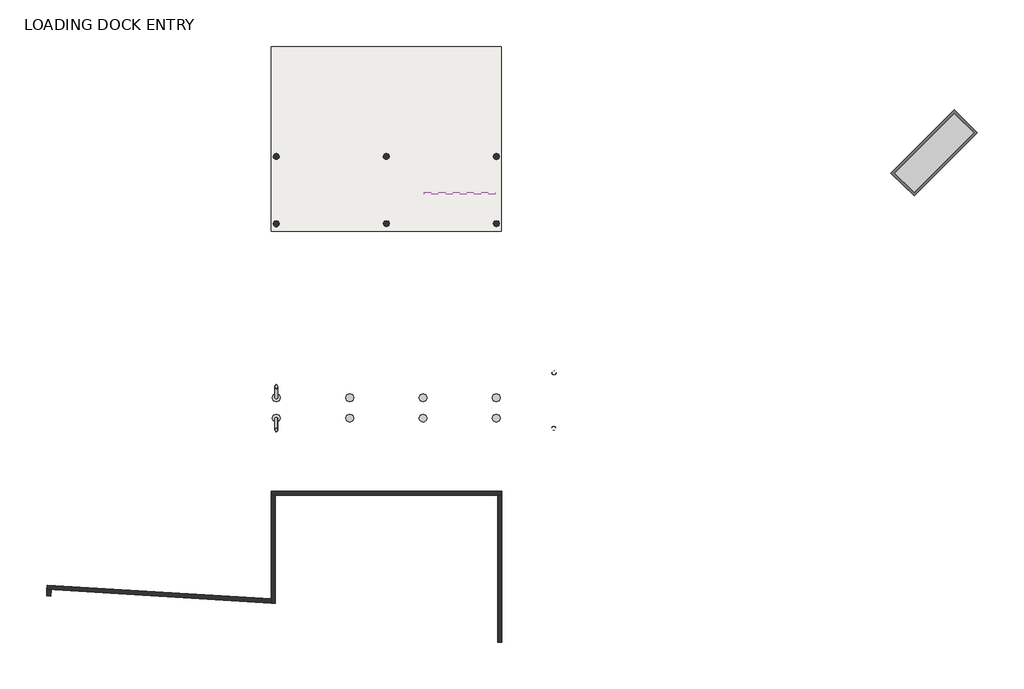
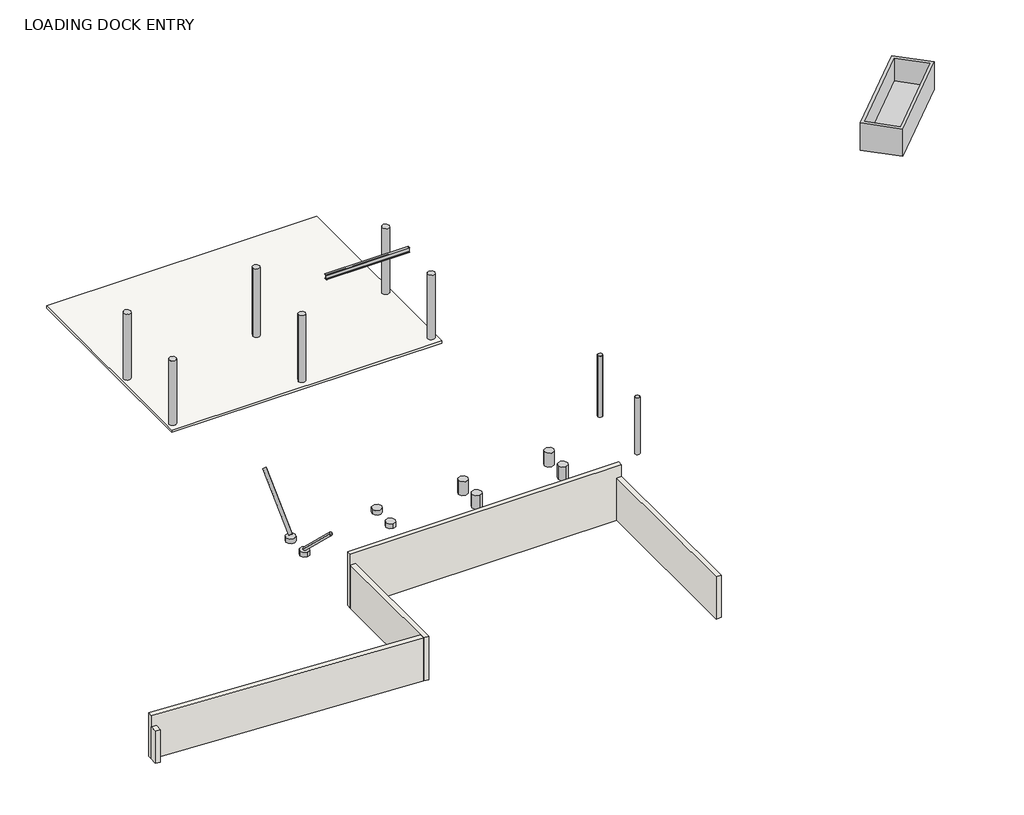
# One storey, incomplete: 18 columns, 5 walls, 1 beam, 1 proxy, 1 slab.
"""IFC4 building model written with IfcOpenShell, lengths in millimetres."""

from ifc_helpers import new_model, si_unit, point, frame, frame_2d, origin, place, context, project, spatial, polyline, circle_curve, trimmed, segment, composite_curve, outline, extrude, faceted_brep, transform, mapped, element, save
from components import w_wide_flange_w12x26_7d68bc66, existing_electrical_switch1_existing_electrical_switch_2896527b, hss_round_hollow_structural_section_column_hss12_x0_50_0d9d4bae, hss_round_hollow_structural_section_column_hss12_x0_50_422785a7, column_3b8863fc, column_3d543a50, column_1d684364, column_8929e9b8, column_4fa73ab5, column_67824fff, column_43f7fc2e, column_206635bb

model = new_model("IFC4")

# Units and contexts
model_context = context("Model", 3, world=origin())
ifc_project = project(units=[si_unit("LENGTHUNIT", "METRE", prefix="MILLI")], contexts=[model_context])

# Site, building, storey
site = spatial("IfcSite", under=ifc_project)
building = spatial("IfcBuilding", under=site)
storey = spatial("IfcBuildingStorey", under=building, Name="LOADING DOCK ENTRY", Elevation=290080.7)

# Beam
placement = place(None, origin())
w_wide_flange_w12x26_shape = w_wide_flange_w12x26_7d68bc66(model_context)
element("IfcBeam", 1, ObjectType="W-Wide Flange : W12X26", at=placement, inside=storey, context=model_context, shape_type="MappedRepresentation", body=[
    mapped(w_wide_flange_w12x26_shape, transform((39198.8899964, 203240.5614935, 294675.56), x_axis=(1.0, 0.0, 0.0), y_axis=(0.0, 1.0, 0.0), z_axis=(0.0, 0.0, 1.0))),
])

# Proxy
existing_electrical_switch1_existing_electrical_switch_shape = existing_electrical_switch1_existing_electrical_switch_2896527b(model_context)
element("IfcBuildingElementProxy", 2, Name="Existing Electrical Switch1 : Existing Electrical Switch", ObjectType="Existing Electrical Switch1 : Existing Electrical Switch", at=placement, inside=storey, context=model_context, shape_type="MappedRepresentation", body=[
    mapped(existing_electrical_switch1_existing_electrical_switch_shape, transform((-89111.9247697, 40654.2381884, 0.0), x_axis=(1.0, 0.0, 0.0), y_axis=(0.0, 1.0, 0.0), z_axis=(0.0, 0.0, 1.0))),
])

# Columns
hss_round_hollow_structural_section_column_hss12_x0_50_shape = hss_round_hollow_structural_section_column_hss12_x0_50_0d9d4bae(model_context)
element("IfcColumn", 3, ObjectType="HSS-Round Hollow Structural Section-Column : HSS12 X0.50", at=placement, inside=storey, context=model_context, shape_type="MappedRepresentation", body=[
    mapped(hss_round_hollow_structural_section_column_hss12_x0_50_shape, transform((43781.3226832, 189791.3399368, 0.0), x_axis=(1.0, 0.0, 0.0), y_axis=(0.0, 1.0, 0.0), z_axis=(0.0, 0.0, 1.0))),
])
hss_round_hollow_structural_section_column_hss12_x0_50_2_shape = hss_round_hollow_structural_section_column_hss12_x0_50_422785a7(model_context)
element("IfcColumn", 4, ObjectType="HSS-Round Hollow Structural Section-Column : HSS12 X0.50", at=placement, inside=storey, context=model_context, shape_type="MappedRepresentation", body=[
    mapped(hss_round_hollow_structural_section_column_hss12_x0_50_2_shape, transform((43762.2726832, 185651.1399368, 0.0), x_axis=(1.0, 0.0, 0.0), y_axis=(0.0, 1.0, 0.0), z_axis=(0.0, 0.0, 1.0))),
])
element("IfcColumn", 5, ObjectType="HSS-Round Hollow Structural Section-Column : HSS8.625X0.500", at=placement, inside=storey, context=model_context, shape_type="SweptSolid", body=[
    extrude(outline(composite_curve([segment(trimmed(circle_curve(frame_2d((0.0, -109.5375)), 109.5375), [point((0.0, -219.075))], [point((0.0, 0.0))], False, "CARTESIAN"), True, "CONTINUOUS"), segment(trimmed(circle_curve(frame_2d((0.0, -109.5375)), 109.5375), [point((0.0, 0.0))], [point((0.0, -219.075))], False, "CARTESIAN"), True, "CONTINUOUS")], self_intersect=False), holes=[composite_curve([segment(trimmed(circle_curve(frame_2d((0.0, -109.5375)), 97.7265), [point((0.0, -207.264))], [point((0.0, -11.811))], True, "CARTESIAN"), True, "CONTINUOUS"), segment(trimmed(circle_curve(frame_2d((0.0, -109.5375)), 97.7265), [point((0.0, -11.811))], [point((0.0, -207.264))], True, "CARTESIAN"), True, "CONTINUOUS")], self_intersect=False)]), frame((22898.3129964, 187937.204816, 290486.1057645), z_axis=(0.0, 0.7251659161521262, 0.6885741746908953), x_axis=(0.0, 0.6885741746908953, -0.7251659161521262)), (0.0, 0.0, 1.0), 3964.4029378),
])
element("IfcColumn", 6, ObjectType="HSS-Round Hollow Structural Section-Column : HSS8.625X0.500", at=placement, inside=storey, context=model_context, shape_type="SweptSolid", body=[
    extrude(outline(composite_curve([segment(trimmed(circle_curve(frame_2d((0.0, -109.5375)), 109.5375), [point((0.0, -219.075))], [point((0.0, 0.0))], False, "CARTESIAN"), True, "CONTINUOUS"), segment(trimmed(circle_curve(frame_2d((0.0, -109.5375)), 109.5375), [point((0.0, 0.0))], [point((0.0, -219.075))], False, "CARTESIAN"), True, "CONTINUOUS")], self_intersect=False), holes=[composite_curve([segment(trimmed(circle_curve(frame_2d((0.0, -109.5375)), 97.7265), [point((0.0, -207.264))], [point((0.0, -11.811))], True, "CARTESIAN"), True, "CONTINUOUS"), segment(trimmed(circle_curve(frame_2d((0.0, -109.5375)), 97.7265), [point((0.0, -11.811))], [point((0.0, -207.264))], True, "CARTESIAN"), True, "CONTINUOUS")], self_intersect=False)]), frame((23117.3879964, 186387.3824451, 290486.1057645), z_axis=(0.0, -0.7251659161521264, 0.688574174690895), x_axis=(0.0, -0.688574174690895, -0.7251659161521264)), (0.0, 0.0, 1.0), 3964.4029378),
])
element("IfcColumn", 7, ObjectType="Round Column : 18\" DIAMETER", at=placement, inside=storey, context=model_context, shape_type="SweptSolid", body=[
    extrude(outline(composite_curve([segment(trimmed(circle_curve(frame_2d((31237.4504964, 200962.223934)), 228.6), [point((31466.0504964, 200962.223934))], [point((31008.8504964, 200962.223934))], False, "CARTESIAN"), True, "CONTINUOUS"), segment(trimmed(circle_curve(frame_2d((31237.4504964, 200962.223934)), 228.6), [point((31008.8504964, 200962.223934))], [point((31237.4504964, 201190.823934))], False, "CARTESIAN"), True, "CONTINUOUS"), segment(trimmed(circle_curve(frame_2d((31237.4504964, 200962.223934)), 228.6), [point((31237.4504964, 201190.823934))], [point((31466.0504964, 200962.223934))], False, "CARTESIAN"), True, "CONTINUOUS")], self_intersect=False)), frame((0.0, 0.0, 290080.7), z_axis=(0.0, 0.0, 1.0), x_axis=(1.0, 0.0, 0.0)), (0.0, 0.0, 1.0), 4495.8),
])
element("IfcColumn", 8, ObjectType="Round Column : 18\" DIAMETER", at=placement, inside=storey, context=model_context, shape_type="SweptSolid", body=[
    extrude(outline(composite_curve([segment(trimmed(circle_curve(frame_2d((39467.0504964, 200962.223934)), 228.6), [point((39238.4504964, 200962.223934))], [point((39467.0504964, 201190.823934))], False, "CARTESIAN"), True, "CONTINUOUS"), segment(trimmed(circle_curve(frame_2d((39467.0504964, 200962.223934)), 228.6), [point((39467.0504964, 201190.823934))], [point((39695.6504964, 200962.223934))], False, "CARTESIAN"), True, "CONTINUOUS"), segment(trimmed(circle_curve(frame_2d((39467.0504964, 200962.223934)), 228.6), [point((39695.6504964, 200962.223934))], [point((39238.4504964, 200962.223934))], False, "CARTESIAN"), True, "CONTINUOUS")], self_intersect=False)), frame((0.0, 0.0, 290080.7), z_axis=(0.0, 0.0, 1.0), x_axis=(1.0, 0.0, 0.0)), (0.0, 0.0, 1.0), 4343.4),
])
column_shape = column_3b8863fc(model_context)
element("IfcColumn", 9, ObjectType="Round Column : 18\" DIAMETER", at=placement, inside=storey, context=model_context, shape_type="MappedRepresentation", body=[
    mapped(column_shape, transform((23007.8504964, 205983.7614935, 0.0), x_axis=(1.0, 0.0, 0.0), y_axis=(0.0, 1.0, 0.0), z_axis=(0.0, 0.0, 1.0))),
])
column_2_shape = column_3d543a50(model_context)
element("IfcColumn", 10, ObjectType="Round Column : 18\" DIAMETER", at=placement, inside=storey, context=model_context, shape_type="MappedRepresentation", body=[
    mapped(column_2_shape, transform((23007.8504964, 200962.223934, 0.0), x_axis=(1.0, 0.0, 0.0), y_axis=(0.0, 1.0, 0.0), z_axis=(0.0, 0.0, 1.0))),
])
column_3_shape = column_1d684364(model_context)
element("IfcColumn", 11, ObjectType="Round Column : 18\" DIAMETER", at=placement, inside=storey, context=model_context, shape_type="MappedRepresentation", body=[
    mapped(column_3_shape, transform((31237.4504964, 205983.7614935, 0.0), x_axis=(1.0, 0.0, 0.0), y_axis=(0.0, 1.0, 0.0), z_axis=(0.0, 0.0, 1.0))),
])
column_4_shape = column_8929e9b8(model_context)
element("IfcColumn", 12, ObjectType="Round Column : 18\" DIAMETER", at=placement, inside=storey, context=model_context, shape_type="MappedRepresentation", body=[
    mapped(column_4_shape, transform((39467.0504964, 205983.7614935, 0.0), x_axis=(-1.0, 0.0, 0.0), y_axis=(0.0, -1.0, 0.0), z_axis=(0.0, 0.0, 1.0))),
])
column_5_shape = column_4fa73ab5(model_context)
element("IfcColumn", 13, ObjectType="Round Column : 24\" Dia Pier Footing", at=placement, inside=storey, context=model_context, shape_type="MappedRepresentation", body=[
    mapped(column_5_shape, transform((28494.2504964, 187940.0694118, 0.0), x_axis=(1.0, 0.0, 0.0), y_axis=(0.0, 1.0, 0.0), z_axis=(0.0, 0.0, 1.0))),
])
element("IfcColumn", 14, ObjectType="Round Column : 24\" Dia Pier Footing", at=placement, inside=storey, context=model_context, shape_type="MappedRepresentation", body=[
    mapped(column_5_shape, transform((23007.8504964, 187940.0694118, 0.0), x_axis=(1.0, 0.0, 0.0), y_axis=(0.0, 1.0, 0.0), z_axis=(0.0, 0.0, 1.0))),
])
column_6_shape = column_67824fff(model_context)
element("IfcColumn", 15, ObjectType="Round Column : 24\" Dia Pier Footing", at=placement, inside=storey, context=model_context, shape_type="MappedRepresentation", body=[
    mapped(column_6_shape, transform((28494.2504964, 186416.0694118, 0.0), x_axis=(1.0, 0.0, 0.0), y_axis=(0.0, 1.0, 0.0), z_axis=(0.0, 0.0, 1.0))),
])
element("IfcColumn", 16, ObjectType="Round Column : 24\" Dia Pier Footing", at=placement, inside=storey, context=model_context, shape_type="MappedRepresentation", body=[
    mapped(column_6_shape, transform((23007.8504964, 186416.0694118, 0.0), x_axis=(1.0, 0.0, 0.0), y_axis=(0.0, 1.0, 0.0), z_axis=(0.0, 0.0, 1.0))),
])
column_7_shape = column_43f7fc2e(model_context)
element("IfcColumn", 17, ObjectType="Round Column : 24\" Dia Pier Footing", at=placement, inside=storey, context=model_context, shape_type="MappedRepresentation", body=[
    mapped(column_7_shape, transform((33980.6504964, 186416.0694118, 0.0), x_axis=(-1.0, 0.0, 0.0), y_axis=(0.0, -1.0, 0.0), z_axis=(0.0, 0.0, 1.0))),
])
element("IfcColumn", 18, ObjectType="Round Column : 24\" Dia Pier Footing", at=placement, inside=storey, context=model_context, shape_type="MappedRepresentation", body=[
    mapped(column_7_shape, transform((39467.0504964, 186416.0694118, 0.0), x_axis=(-1.0, 0.0, 0.0), y_axis=(0.0, -1.0, 0.0), z_axis=(0.0, 0.0, 1.0))),
])
column_8_shape = column_206635bb(model_context)
element("IfcColumn", 19, ObjectType="Round Column : 24\" Dia Pier Footing", at=placement, inside=storey, context=model_context, shape_type="MappedRepresentation", body=[
    mapped(column_8_shape, transform((33980.6504964, 187940.0694118, 0.0), x_axis=(-1.0, 0.0, 0.0), y_axis=(0.0, -1.0, 0.0), z_axis=(0.0, 0.0, 1.0))),
])
element("IfcColumn", 20, ObjectType="Round Column : 24\" Dia Pier Footing", at=placement, inside=storey, context=model_context, shape_type="MappedRepresentation", body=[
    mapped(column_8_shape, transform((39467.0504964, 187940.0694118, 0.0), x_axis=(-1.0, 0.0, 0.0), y_axis=(0.0, -1.0, 0.0), z_axis=(0.0, 0.0, 1.0))),
])

# Slab
element("IfcSlab", 21, ObjectType="6\" Concrete Slab", at=placement, inside=storey, context=model_context, shape_type="SweptSolid", body=[
    extrude(outline(polyline([(39823.5654546, 214210.4633631), (39823.5654546, 200403.4248418), (22631.8619346, 200403.4248418), (22631.8619346, 214210.4633631), (39823.5654546, 214210.4633631)])), frame((0.0, 0.0, 289928.3), z_axis=(0.0, 0.0, 1.0), x_axis=(1.0, 0.0, 0.0)), (0.0, 0.0, 1.0), 152.4),
])

# Walls
element("IfcWall", 22, ObjectType="12\" Concrete Wall", at=placement, inside=storey, context=model_context, shape_type="SweptSolid", body=[
    extrude(outline(polyline([(39557.2890585, 169665.2101474), (39557.2890585, 180653.6439918), (39862.0890585, 180653.6439918), (39862.0890585, 169665.2101474), (39557.2890585, 169665.2101474)])), frame((0.0, 0.0, 290080.7), z_axis=(0.0, 0.0, 1.0), x_axis=(1.0, 0.0, 0.0)), (0.0, 0.0, 1.0), 2832.1),
])
element("IfcWall", 23, ObjectType="12\" Concrete Wall", at=placement, inside=storey, context=model_context, shape_type="Brep", body=[
    faceted_brep([(39862.0890585, 180958.4439918, 290080.7), (22613.0544304, 180958.4439918, 290080.7), (22613.0544304, 180958.4439918, 293700.2), (39862.0890585, 180958.4439918, 293700.2), (39862.0890585, 180653.6439918, 290080.7), (39862.0890585, 180653.6439918, 292912.8), (39862.0890585, 180653.6439918, 293700.2), (22613.0544304, 180653.6439918, 293700.2), (22613.0544304, 180653.6439918, 292989.0), (22613.0544304, 180653.6439918, 290080.7), (22917.8544304, 180653.6439918, 290080.7), (39557.2890585, 180653.6439918, 290080.7)], [[[0, 1, 2, 3]], [[4, 5, 6, 7, 8, 9, 10, 11]], [[1, 0, 4, 11, 10, 9]], [[2, 1, 9, 8, 7]], [[3, 2, 7, 6]], [[0, 3, 6, 5, 4]]]),
])
element("IfcWall", 24, ObjectType="12\" Concrete Wall", at=placement, inside=storey, context=model_context, shape_type="Brep", body=[
    faceted_brep([(22613.0544304, 180653.6439918, 290080.7), (22613.0544304, 172884.957319, 290080.7), (22613.0544304, 172579.598003, 290080.7), (22613.0544304, 172579.598003, 292989.0), (22613.0544304, 172884.957319, 292989.0), (22613.0544304, 180653.6439918, 292989.0), (22917.8544304, 180653.6439918, 290080.7), (22917.8544304, 180653.6439918, 292989.0), (22917.8544304, 172561.1244584, 292989.0), (22917.8544304, 172561.1244584, 290080.7)], [[[0, 1, 2, 3, 4, 5]], [[6, 7, 8, 9]], [[2, 1, 0, 6, 9]], [[5, 4, 3, 8, 7]], [[3, 2, 9, 8]], [[0, 5, 7, 6]]]),
])
element("IfcWall", 25, ObjectType="12\" Concrete Wall", at=placement, inside=storey, context=model_context, shape_type="Brep", body=[
    faceted_brep([(22613.0544304, 172884.957319, 290080.7), (5869.3195035, 173899.7740325, 290080.7), (5869.3195035, 173899.7740325, 292989.0), (22613.0544304, 172884.957319, 292989.0), (22613.0544304, 172579.598003, 290080.7), (22613.0544304, 172579.598003, 292989.0), (5849.6338066, 173595.6078418, 292989.0), (5849.6338066, 173595.6078418, 292239.7), (5849.6338066, 173595.6078418, 290080.7), (6153.8780665, 173577.1679799, 290080.7)], [[[0, 1, 2, 3]], [[4, 5, 6, 7, 8, 9]], [[1, 0, 4, 9, 8]], [[3, 2, 6, 5]], [[0, 3, 5, 4]], [[2, 1, 8, 7, 6]]]),
])
element("IfcWall", 26, ObjectType="12\" Concrete Wall", at=placement, inside=storey, context=model_context, shape_type="SweptSolid", body=[
    extrude(outline(polyline([(5818.7602827, 173118.5771231), (5849.6338066, 173595.6078418), (6153.8780665, 173577.1679799), (6122.9239226, 173098.8915913), (5818.7602827, 173118.5771231)])), frame((0.0, 0.0, 290080.7), z_axis=(0.0, 0.0, 1.0), x_axis=(1.0, 0.0, 0.0)), (0.0, 0.0, 1.0), 2159.0),
])

save(model, "model.ifc")
